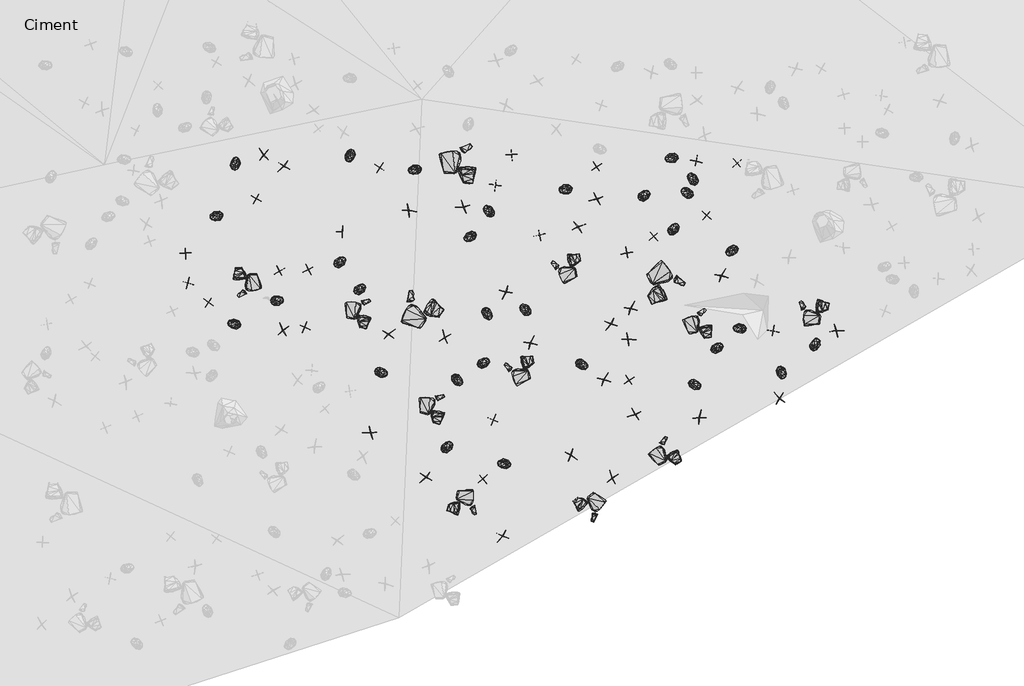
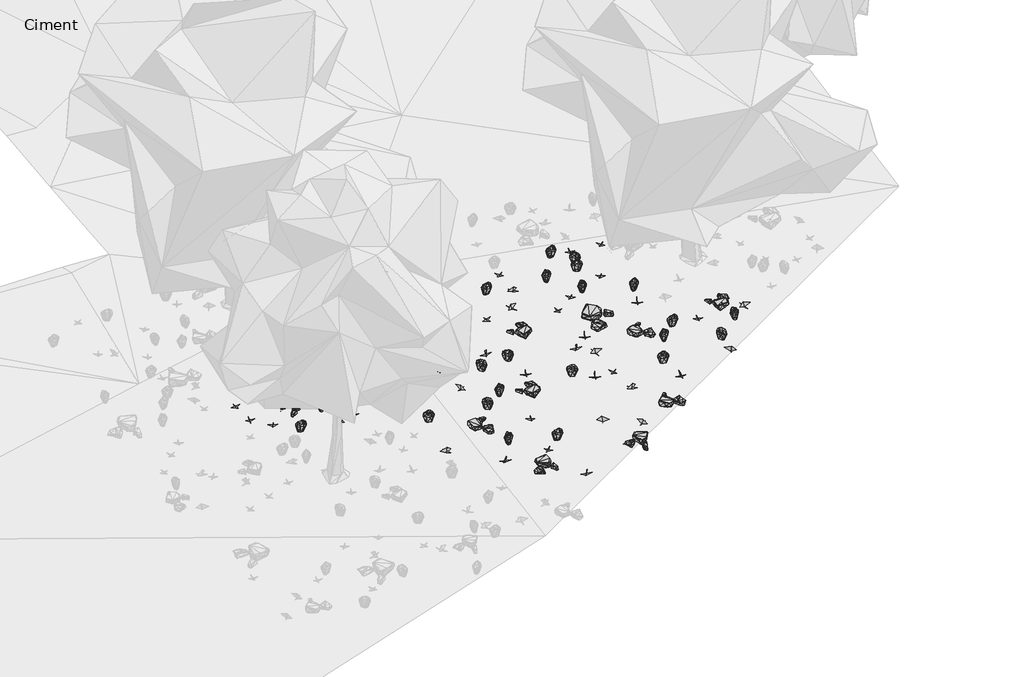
# One storey, part 13 of 30: 90 geographic elements.
"""IFC4 building model written with IfcOpenShell, lengths in millimetres."""

from ifc_helpers import new_model, si_unit, origin, place, context, project, spatial, transform, mapped, element, save
from components import enscape_assetdefinition_bush_025_fern_enscape_5718bf32, enscape_assetdefinition_bush_054_plant_09_version_2_enscape_7b546a12, enscape_assetdefinition_bush_062_plant_09_version_3_enscape_ccf8c8eb, enscape_assetdefinition_stone_013_group_enscape_516da325, enscape_assetdefinition_stone_013_group_enscape_db9b3e91

model = new_model("IFC4")

# Units and contexts
model_context = context("Model", 3, world=origin())
ifc_project = project(units=[si_unit("LENGTHUNIT", "METRE", prefix="MILLI")], contexts=[model_context])

# Site, building, storey
site = spatial("IfcSite", under=ifc_project)
building = spatial("IfcBuilding", under=site)
storey = spatial("IfcBuildingStorey", under=building, Name="Ciment", Elevation=-1500.0)

# Geographic elements
placement = place(None, origin())
enscape_assetdefinition_bush_025_fern_enscape_shape = enscape_assetdefinition_bush_025_fern_enscape_5718bf32(model_context)
element("IfcGeographicElement", 1, ObjectType="Enscape AssetDefinition - Bush 025 Fern : Enscape AssetDefinition - Bush 025 Fern", at=placement, inside=storey, context=model_context, shape_type="MappedRepresentation", body=[
    mapped(enscape_assetdefinition_bush_025_fern_enscape_shape, transform((18294.1112518, -16118.4368134, -2400.1202583), x_axis=(-0.9525654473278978, -0.3043338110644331, 0.0), y_axis=(0.3043338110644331, -0.9525654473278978, 0.0), z_axis=(0.0, 0.0, 1.0))),
])
element("IfcGeographicElement", 2, ObjectType="Enscape AssetDefinition - Bush 025 Fern : Enscape AssetDefinition - Bush 025 Fern", at=placement, inside=storey, context=model_context, shape_type="MappedRepresentation", body=[
    mapped(enscape_assetdefinition_bush_025_fern_enscape_shape, transform((18617.7349091, -16834.9666595, -2486.5083694), x_axis=(-0.894571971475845, 0.4469239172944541, 0.0), y_axis=(-0.4469239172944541, -0.894571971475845, 0.0), z_axis=(0.0, 0.0, 1.0))),
])
element("IfcGeographicElement", 3, ObjectType="Enscape AssetDefinition - Bush 025 Fern : Enscape AssetDefinition - Bush 025 Fern", at=placement, inside=storey, context=model_context, shape_type="MappedRepresentation", body=[
    mapped(enscape_assetdefinition_bush_025_fern_enscape_shape, transform((17741.3196564, -16894.9985504, -2444.0667629), x_axis=(0.6806241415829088, 0.7326327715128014, 0.0), y_axis=(-0.7326327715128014, 0.6806241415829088, 0.0), z_axis=(0.0, 0.0, 1.0))),
])
element("IfcGeographicElement", 4, ObjectType="Enscape AssetDefinition - Bush 025 Fern : Enscape AssetDefinition - Bush 025 Fern", at=placement, inside=storey, context=model_context, shape_type="MappedRepresentation", body=[
    mapped(enscape_assetdefinition_bush_025_fern_enscape_shape, transform((19702.6309967, -19638.0214691, -2814.4989014), x_axis=(-0.9982478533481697, -0.0591711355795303, 0.0), y_axis=(0.0591711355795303, -0.9982478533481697, 0.0), z_axis=(0.0, 0.0, 1.0))),
])
element("IfcGeographicElement", 5, ObjectType="Enscape AssetDefinition - Bush 025 Fern : Enscape AssetDefinition - Bush 025 Fern", at=placement, inside=storey, context=model_context, shape_type="MappedRepresentation", body=[
    mapped(enscape_assetdefinition_bush_025_fern_enscape_shape, transform((13669.6872711, -22092.0791626, -2717.7143097), x_axis=(0.634227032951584, 0.7731468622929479, 0.0), y_axis=(-0.7731468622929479, 0.634227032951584, 0.0), z_axis=(0.0, 0.0, 1.0))),
])
element("IfcGeographicElement", 6, ObjectType="Enscape AssetDefinition - Bush 025 Fern : Enscape AssetDefinition - Bush 025 Fern", at=placement, inside=storey, context=model_context, shape_type="MappedRepresentation", body=[
    mapped(enscape_assetdefinition_bush_025_fern_enscape_shape, transform((13870.9201813, -20720.823288, -2597.5065231), x_axis=(0.7721068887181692, -0.6354926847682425, 0.0), y_axis=(0.6354926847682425, 0.7721068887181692, 0.0), z_axis=(0.0, 0.0, 1.0))),
])
element("IfcGeographicElement", 7, ObjectType="Enscape AssetDefinition - Bush 025 Fern : Enscape AssetDefinition - Bush 025 Fern", at=placement, inside=storey, context=model_context, shape_type="MappedRepresentation", body=[
    mapped(enscape_assetdefinition_bush_025_fern_enscape_shape, transform((12300.8718491, -20561.33461, -2516.5832043), x_axis=(0.9725343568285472, -0.23275937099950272, 0.0), y_axis=(0.23275937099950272, 0.9725343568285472, 0.0), z_axis=(0.0, 0.0, 1.0))),
])
element("IfcGeographicElement", 8, ObjectType="Enscape AssetDefinition - Bush 025 Fern : Enscape AssetDefinition - Bush 025 Fern", at=placement, inside=storey, context=model_context, shape_type="MappedRepresentation", body=[
    mapped(enscape_assetdefinition_bush_025_fern_enscape_shape, transform((9254.4384003, -19545.8812714, -2361.3886833), x_axis=(-0.9963437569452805, 0.08543487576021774, 0.0), y_axis=(-0.08543487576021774, -0.9963437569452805, 0.0), z_axis=(0.0, 0.0, 1.0))),
])
element("IfcGeographicElement", 9, ObjectType="Enscape AssetDefinition - Bush 025 Fern : Enscape AssetDefinition - Bush 025 Fern", at=placement, inside=storey, context=model_context, shape_type="MappedRepresentation", body=[
    mapped(enscape_assetdefinition_bush_025_fern_enscape_shape, transform((15274.8622894, -19249.33815, -2533.834219), x_axis=(-0.7952597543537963, 0.6062688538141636, 0.0), y_axis=(-0.6062688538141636, -0.7952597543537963, 0.0), z_axis=(0.0, 0.0, 1.0))),
])
element("IfcGeographicElement", 10, ObjectType="Enscape AssetDefinition - Bush 025 Fern : Enscape AssetDefinition - Bush 025 Fern", at=placement, inside=storey, context=model_context, shape_type="MappedRepresentation", body=[
    mapped(enscape_assetdefinition_bush_025_fern_enscape_shape, transform((18785.8181, -20811.0713959, -2876.3856888), x_axis=(0.9673684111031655, -0.253373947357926, 0.0), y_axis=(0.253373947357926, 0.9673684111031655, 0.0), z_axis=(0.0, 0.0, 1.0))),
])
element("IfcGeographicElement", 11, ObjectType="Enscape AssetDefinition - Bush 025 Fern : Enscape AssetDefinition - Bush 025 Fern", at=placement, inside=storey, context=model_context, shape_type="MappedRepresentation", body=[
    mapped(enscape_assetdefinition_bush_025_fern_enscape_shape, transform((14522.7718353, -17210.5884552, -2297.3108292), x_axis=(-0.7524160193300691, 0.6586881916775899, 0.0), y_axis=(-0.6586881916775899, -0.7524160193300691, 0.0), z_axis=(0.0, 0.0, 1.0))),
])
element("IfcGeographicElement", 12, ObjectType="Enscape AssetDefinition - Bush 025 Fern : Enscape AssetDefinition - Bush 025 Fern", at=placement, inside=storey, context=model_context, shape_type="MappedRepresentation", body=[
    mapped(enscape_assetdefinition_bush_025_fern_enscape_shape, transform((19541.0003662, -18037.2982025, -2652.3730755), x_axis=(-0.7257281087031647, -0.6879816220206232, 0.0), y_axis=(0.6879816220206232, -0.7257281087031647, 0.0), z_axis=(0.0, 0.0, 1.0))),
])
element("IfcGeographicElement", 13, ObjectType="Enscape AssetDefinition - Bush 025 Fern : Enscape AssetDefinition - Bush 025 Fern", at=placement, inside=storey, context=model_context, shape_type="MappedRepresentation", body=[
    mapped(enscape_assetdefinition_bush_025_fern_enscape_shape, transform((9289.4191742, -16230.9017181, -2049.9300957), x_axis=(0.08808403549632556, 0.996113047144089, 0.0), y_axis=(-0.996113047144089, 0.08808403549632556, 0.0), z_axis=(0.0, 0.0, 1.0))),
])
element("IfcGeographicElement", 14, ObjectType="Enscape AssetDefinition - Bush 025 Fern : Enscape AssetDefinition - Bush 025 Fern", at=placement, inside=storey, context=model_context, shape_type="MappedRepresentation", body=[
    mapped(enscape_assetdefinition_bush_025_fern_enscape_shape, transform((21275.5508423, -19969.247818, -2932.693243), x_axis=(0.3637627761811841, 0.9314916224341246, 0.0), y_axis=(-0.9314916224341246, 0.3637627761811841, 0.0), z_axis=(0.0, 0.0, 1.0))),
])
element("IfcGeographicElement", 15, ObjectType="Enscape AssetDefinition - Bush 025 Fern : Enscape AssetDefinition - Bush 025 Fern", at=placement, inside=storey, context=model_context, shape_type="MappedRepresentation", body=[
    mapped(enscape_assetdefinition_bush_025_fern_enscape_shape, transform((16450.3726959, -20397.0890045, -2708.3435059), x_axis=(0.9203547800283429, -0.3910844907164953, 0.0), y_axis=(0.3910844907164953, 0.9203547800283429, 0.0), z_axis=(0.0, 0.0, 1.0))),
])
element("IfcGeographicElement", 16, ObjectType="Enscape AssetDefinition - Bush 025 Fern : Enscape AssetDefinition - Bush 025 Fern", at=placement, inside=storey, context=model_context, shape_type="MappedRepresentation", body=[
    mapped(enscape_assetdefinition_bush_025_fern_enscape_shape, transform((16101.4823914, -16763.8607025, -2341.3484097), x_axis=(-0.9728513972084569, -0.2314306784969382, 0.0), y_axis=(0.2314306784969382, -0.9728513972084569, 0.0), z_axis=(0.0, 0.0, 1.0))),
])
element("IfcGeographicElement", 17, ObjectType="Enscape AssetDefinition - Bush 025 Fern : Enscape AssetDefinition - Bush 025 Fern", at=placement, inside=storey, context=model_context, shape_type="MappedRepresentation", body=[
    mapped(enscape_assetdefinition_bush_025_fern_enscape_shape, transform((11451.8718719, -18271.2078094, -2284.3382359), x_axis=(0.7247481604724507, 0.6890138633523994, 0.0), y_axis=(-0.6890138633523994, 0.7247481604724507, 0.0), z_axis=(0.0, 0.0, 1.0))),
])
element("IfcGeographicElement", 18, ObjectType="Enscape AssetDefinition - Bush 025 Fern : Enscape AssetDefinition - Bush 025 Fern", at=placement, inside=storey, context=model_context, shape_type="MappedRepresentation", body=[
    mapped(enscape_assetdefinition_bush_025_fern_enscape_shape, transform((10153.2421112, -19073.884964, -2334.5224857), x_axis=(0.9740836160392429, 0.22618821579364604, 0.0), y_axis=(-0.22618821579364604, 0.9740836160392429, 0.0), z_axis=(0.0, 0.0, 1.0))),
])
element("IfcGeographicElement", 19, ObjectType="Enscape AssetDefinition - Bush 025 Fern : Enscape AssetDefinition - Bush 025 Fern", at=placement, inside=storey, context=model_context, shape_type="MappedRepresentation", body=[
    mapped(enscape_assetdefinition_bush_025_fern_enscape_shape, transform((14832.8495026, -22434.8011017, -2814.4779205), x_axis=(-0.9999945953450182, -0.003287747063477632, 0.0), y_axis=(0.003287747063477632, -0.9999945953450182, 0.0), z_axis=(0.0, 0.0, 1.0))),
])
element("IfcGeographicElement", 20, ObjectType="Enscape AssetDefinition - Bush 025 Fern : Enscape AssetDefinition - Bush 025 Fern", at=placement, inside=storey, context=model_context, shape_type="MappedRepresentation", body=[
    mapped(enscape_assetdefinition_bush_025_fern_enscape_shape, transform((18739.3321991, -16546.7739105, -2465.6059742), x_axis=(-0.6854442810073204, 0.7281250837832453, 0.0), y_axis=(-0.7281250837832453, -0.6854442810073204, 0.0), z_axis=(0.0, 0.0, 1.0))),
])
element("IfcGeographicElement", 21, ObjectType="Enscape AssetDefinition - Bush 025 Fern : Enscape AssetDefinition - Bush 025 Fern", at=placement, inside=storey, context=model_context, shape_type="MappedRepresentation", body=[
    mapped(enscape_assetdefinition_bush_025_fern_enscape_shape, transform((14419.2371368, -20354.8107147, -2592.6170349), x_axis=(0.7932681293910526, 0.6088724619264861, 0.0), y_axis=(-0.6088724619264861, 0.7932681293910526, 0.0), z_axis=(0.0, 0.0, 1.0))),
])
element("IfcGeographicElement", 22, ObjectType="Enscape AssetDefinition - Bush 025 Fern : Enscape AssetDefinition - Bush 025 Fern", at=placement, inside=storey, context=model_context, shape_type="MappedRepresentation", body=[
    mapped(enscape_assetdefinition_bush_025_fern_enscape_shape, transform((8885.2977753, -17318.4261322, -2144.4296837), x_axis=(-0.9475764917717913, -0.31952901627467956, 0.0), y_axis=(0.31952901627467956, -0.9475764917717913, 0.0), z_axis=(0.0, 0.0, 1.0))),
])
element("IfcGeographicElement", 23, ObjectType="Enscape AssetDefinition - Bush 025 Fern : Enscape AssetDefinition - Bush 025 Fern", at=placement, inside=storey, context=model_context, shape_type="MappedRepresentation", body=[
    mapped(enscape_assetdefinition_bush_025_fern_enscape_shape, transform((11865.3125763, -18829.5459747, -2344.9976444), x_axis=(0.720117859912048, 0.693851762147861, 0.0), y_axis=(-0.693851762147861, 0.720117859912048, 0.0), z_axis=(0.0, 0.0, 1.0))),
])
element("IfcGeographicElement", 24, ObjectType="Enscape AssetDefinition - Bush 025 Fern : Enscape AssetDefinition - Bush 025 Fern", at=placement, inside=storey, context=model_context, shape_type="MappedRepresentation", body=[
    mapped(enscape_assetdefinition_bush_025_fern_enscape_shape, transform((18349.4052887, -17589.4241333, -2543.9796448), x_axis=(0.5585874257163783, 0.8294456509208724, 0.0), y_axis=(-0.8294456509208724, 0.5585874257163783, 0.0), z_axis=(0.0, 0.0, 1.0))),
])
element("IfcGeographicElement", 25, ObjectType="Enscape AssetDefinition - Bush 025 Fern : Enscape AssetDefinition - Bush 025 Fern", at=placement, inside=storey, context=model_context, shape_type="MappedRepresentation", body=[
    mapped(enscape_assetdefinition_bush_025_fern_enscape_shape, transform((11646.4862823, -16077.0397186, -2081.5386772), x_axis=(-0.23139083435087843, -0.9728608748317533, 0.0), y_axis=(0.9728608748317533, -0.23139083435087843, 0.0), z_axis=(0.0, 0.0, 1.0))),
])
element("IfcGeographicElement", 26, ObjectType="Enscape AssetDefinition - Bush 025 Fern : Enscape AssetDefinition - Bush 025 Fern", at=placement, inside=storey, context=model_context, shape_type="MappedRepresentation", body=[
    mapped(enscape_assetdefinition_bush_025_fern_enscape_shape, transform((20570.9018707, -20566.4043427, -2951.1153698), x_axis=(0.4454296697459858, -0.8953169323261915, 0.0), y_axis=(0.8953169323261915, 0.4454296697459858, 0.0), z_axis=(0.0, 0.0, 1.0))),
])
element("IfcGeographicElement", 27, ObjectType="Enscape AssetDefinition - Bush 025 Fern : Enscape AssetDefinition - Bush 025 Fern", at=placement, inside=storey, context=model_context, shape_type="MappedRepresentation", body=[
    mapped(enscape_assetdefinition_bush_025_fern_enscape_shape, transform((14487.0510101, -19348.7949371, -2500.0386238), x_axis=(0.6504575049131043, -0.7595426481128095, 0.0), y_axis=(0.7595426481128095, 0.6504575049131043, 0.0), z_axis=(0.0, 0.0, 1.0))),
])
element("IfcGeographicElement", 28, ObjectType="Enscape AssetDefinition - Bush 025 Fern : Enscape AssetDefinition - Bush 025 Fern", at=placement, inside=storey, context=model_context, shape_type="MappedRepresentation", body=[
    mapped(enscape_assetdefinition_bush_025_fern_enscape_shape, transform((19250.6313324, -20046.5221405, -2828.7522793), x_axis=(0.750601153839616, 0.6607555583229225, 0.0), y_axis=(-0.6607555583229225, 0.750601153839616, 0.0), z_axis=(0.0, 0.0, 1.0))),
])
element("IfcGeographicElement", 29, ObjectType="Enscape AssetDefinition - Bush 025 Fern : Enscape AssetDefinition - Bush 025 Fern", at=placement, inside=storey, context=model_context, shape_type="MappedRepresentation", body=[
    mapped(enscape_assetdefinition_bush_025_fern_enscape_shape, transform((12984.9033356, -16360.5861664, -2134.4125271), x_axis=(-0.9484212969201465, -0.3170126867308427, 0.0), y_axis=(0.3170126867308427, -0.9484212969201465, 0.0), z_axis=(0.0, 0.0, 1.0))),
])
element("IfcGeographicElement", 30, ObjectType="Enscape AssetDefinition - Bush 025 Fern : Enscape AssetDefinition - Bush 025 Fern", at=placement, inside=storey, context=model_context, shape_type="MappedRepresentation", body=[
    mapped(enscape_assetdefinition_bush_025_fern_enscape_shape, transform((14128.4427643, -17749.6509552, -2327.2335529), x_axis=(-0.7685958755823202, -0.6397346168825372, 0.0), y_axis=(0.6397346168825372, -0.7685958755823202, 0.0), z_axis=(0.0, 0.0, 1.0))),
])
enscape_assetdefinition_bush_054_plant_09_version_2_enscape_shape = enscape_assetdefinition_bush_054_plant_09_version_2_enscape_7b546a12(model_context)
element("IfcGeographicElement", 31, ObjectType="Enscape AssetDefinition - Bush 054 Plant 09, Version 2 : Enscape AssetDefinition - Bush 054 Plant 09, Version 2", at=placement, inside=storey, context=model_context, shape_type="MappedRepresentation", body=[
    mapped(enscape_assetdefinition_bush_054_plant_09_version_2_enscape_shape, transform((17932.6915741, -17743.3338165, -2535.8011723), x_axis=(0.7209805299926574, 0.6929553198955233, 0.0), y_axis=(-0.6929553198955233, 0.7209805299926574, 0.0), z_axis=(0.0, 0.0, 1.0))),
])
element("IfcGeographicElement", 32, ObjectType="Enscape AssetDefinition - Bush 054 Plant 09, Version 2 : Enscape AssetDefinition - Bush 054 Plant 09, Version 2", at=placement, inside=storey, context=model_context, shape_type="MappedRepresentation", body=[
    mapped(enscape_assetdefinition_bush_054_plant_09_version_2_enscape_shape, transform((16742.8150177, -16304.0485382, -2332.5929642), x_axis=(0.6039426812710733, -0.7970277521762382, 0.0), y_axis=(0.7970277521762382, 0.6039426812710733, 0.0), z_axis=(0.0, 0.0, 1.0))),
])
element("IfcGeographicElement", 33, ObjectType="Enscape AssetDefinition - Bush 054 Plant 09, Version 2 : Enscape AssetDefinition - Bush 054 Plant 09, Version 2", at=placement, inside=storey, context=model_context, shape_type="MappedRepresentation", body=[
    mapped(enscape_assetdefinition_bush_054_plant_09_version_2_enscape_shape, transform((8305.4180145, -18703.8059235, -2263.5381222), x_axis=(-0.9795356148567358, 0.20127091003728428, 0.0), y_axis=(-0.20127091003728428, -0.9795356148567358, 0.0), z_axis=(0.0, 0.0, 1.0))),
])
element("IfcGeographicElement", 34, ObjectType="Enscape AssetDefinition - Bush 054 Plant 09, Version 2 : Enscape AssetDefinition - Bush 054 Plant 09, Version 2", at=placement, inside=storey, context=model_context, shape_type="MappedRepresentation", body=[
    mapped(enscape_assetdefinition_bush_054_plant_09_version_2_enscape_shape, transform((20395.9331512, -19694.6659088, -2858.0422401), x_axis=(-0.11550366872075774, -0.9933070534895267, 0.0), y_axis=(0.9933070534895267, -0.11550366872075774, 0.0), z_axis=(0.0, 0.0, 1.0))),
])
element("IfcGeographicElement", 35, ObjectType="Enscape AssetDefinition - Bush 054 Plant 09, Version 2 : Enscape AssetDefinition - Bush 054 Plant 09, Version 2", at=placement, inside=storey, context=model_context, shape_type="MappedRepresentation", body=[
    mapped(enscape_assetdefinition_bush_054_plant_09_version_2_enscape_shape, transform((10790.5025482, -18431.9019318, -2286.5352631), x_axis=(0.8700420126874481, 0.49297758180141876, 0.0), y_axis=(-0.49297758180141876, 0.8700420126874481, 0.0), z_axis=(0.0, 0.0, 1.0))),
])
element("IfcGeographicElement", 36, ObjectType="Enscape AssetDefinition - Bush 054 Plant 09, Version 2 : Enscape AssetDefinition - Bush 054 Plant 09, Version 2", at=placement, inside=storey, context=model_context, shape_type="MappedRepresentation", body=[
    mapped(enscape_assetdefinition_bush_054_plant_09_version_2_enscape_shape, transform((14612.5087738, -21537.4774933, -2716.4611816), x_axis=(0.9411500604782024, -0.33798899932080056, 0.0), y_axis=(0.33798899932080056, 0.9411500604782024, 0.0), z_axis=(0.0, 0.0, 1.0))),
])
element("IfcGeographicElement", 37, ObjectType="Enscape AssetDefinition - Bush 054 Plant 09, Version 2 : Enscape AssetDefinition - Bush 054 Plant 09, Version 2", at=placement, inside=storey, context=model_context, shape_type="MappedRepresentation", body=[
    mapped(enscape_assetdefinition_bush_054_plant_09_version_2_enscape_shape, transform((14405.1799774, -22754.5528412, -2821.5732574), x_axis=(-0.6954200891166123, 0.7186034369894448, 0.0), y_axis=(-0.7186034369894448, -0.6954200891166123, 0.0), z_axis=(0.0, 0.0, 1.0))),
])
element("IfcGeographicElement", 38, ObjectType="Enscape AssetDefinition - Bush 054 Plant 09, Version 2 : Enscape AssetDefinition - Bush 054 Plant 09, Version 2", at=placement, inside=storey, context=model_context, shape_type="MappedRepresentation", body=[
    mapped(enscape_assetdefinition_bush_054_plant_09_version_2_enscape_shape, transform((8259.0122223, -18092.3099518, -2205.051899), x_axis=(-0.1219215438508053, 0.9925397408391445, 0.0), y_axis=(-0.9925397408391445, -0.1219215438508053, 0.0), z_axis=(0.0, 0.0, 1.0))),
])
element("IfcGeographicElement", 39, ObjectType="Enscape AssetDefinition - Bush 054 Plant 09, Version 2 : Enscape AssetDefinition - Bush 054 Plant 09, Version 2", at=placement, inside=storey, context=model_context, shape_type="MappedRepresentation", body=[
    mapped(enscape_assetdefinition_bush_054_plant_09_version_2_enscape_shape, transform((11490.4956818, -17651.3996124, -2226.7317772), x_axis=(0.9996141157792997, 0.027778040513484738, 0.0), y_axis=(-0.027778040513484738, 0.9996141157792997, 0.0), z_axis=(0.0, 0.0, 1.0))),
])
element("IfcGeographicElement", 40, ObjectType="Enscape AssetDefinition - Bush 054 Plant 09, Version 2 : Enscape AssetDefinition - Bush 054 Plant 09, Version 2", at=placement, inside=storey, context=model_context, shape_type="MappedRepresentation", body=[
    mapped(enscape_assetdefinition_bush_054_plant_09_version_2_enscape_shape, transform((19027.3609161, -17311.8724823, -2554.6860695), x_axis=(0.6355011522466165, 0.7720999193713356, 0.0), y_axis=(-0.7720999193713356, 0.6355011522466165, 0.0), z_axis=(0.0, 0.0, 1.0))),
])
element("IfcGeographicElement", 41, ObjectType="Enscape AssetDefinition - Bush 054 Plant 09, Version 2 : Enscape AssetDefinition - Bush 054 Plant 09, Version 2", at=placement, inside=storey, context=model_context, shape_type="MappedRepresentation", body=[
    mapped(enscape_assetdefinition_bush_054_plant_09_version_2_enscape_shape, transform((17414.8101807, -20715.4407501, -2791.8484211), x_axis=(0.5895214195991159, -0.8077527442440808, 0.0), y_axis=(0.8077527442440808, 0.5895214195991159, 0.0), z_axis=(0.0, 0.0, 1.0))),
])
element("IfcGeographicElement", 42, ObjectType="Enscape AssetDefinition - Bush 054 Plant 09, Version 2 : Enscape AssetDefinition - Bush 054 Plant 09, Version 2", at=placement, inside=storey, context=model_context, shape_type="MappedRepresentation", body=[
    mapped(enscape_assetdefinition_bush_054_plant_09_version_2_enscape_shape, transform((10190.237999, -18461.4391327, -2277.5774002), x_axis=(0.5370589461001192, -0.8435447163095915, 0.0), y_axis=(0.8435447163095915, 0.5370589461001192, 0.0), z_axis=(0.0, 0.0, 1.0))),
])
element("IfcGeographicElement", 43, ObjectType="Enscape AssetDefinition - Bush 054 Plant 09, Version 2 : Enscape AssetDefinition - Bush 054 Plant 09, Version 2", at=placement, inside=storey, context=model_context, shape_type="MappedRepresentation", body=[
    mapped(enscape_assetdefinition_bush_054_plant_09_version_2_enscape_shape, transform((14663.6638641, -16685.2359772, -2254.7650337), x_axis=(0.08315867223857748, 0.9965363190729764, 0.0), y_axis=(-0.9965363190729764, 0.08315867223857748, 0.0), z_axis=(0.0, 0.0, 1.0))),
])
element("IfcGeographicElement", 44, ObjectType="Enscape AssetDefinition - Bush 054 Plant 09, Version 2 : Enscape AssetDefinition - Bush 054 Plant 09, Version 2", at=placement, inside=storey, context=model_context, shape_type="MappedRepresentation", body=[
    mapped(enscape_assetdefinition_bush_054_plant_09_version_2_enscape_shape, transform((9717.9470062, -16965.4979706, -2127.4814606), x_axis=(0.4441680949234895, 0.8959434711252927, 0.0), y_axis=(-0.8959434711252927, 0.4441680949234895, 0.0), z_axis=(0.0, 0.0, 1.0))),
])
element("IfcGeographicElement", 45, ObjectType="Enscape AssetDefinition - Bush 054 Plant 09, Version 2 : Enscape AssetDefinition - Bush 054 Plant 09, Version 2", at=placement, inside=storey, context=model_context, shape_type="MappedRepresentation", body=[
    mapped(enscape_assetdefinition_bush_054_plant_09_version_2_enscape_shape, transform((19655.210495, -16229.5742035, -2485.5985641), x_axis=(0.6945600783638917, -0.7194347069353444, 0.0), y_axis=(0.7194347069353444, 0.6945600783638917, 0.0), z_axis=(0.0, 0.0, 1.0))),
])
element("IfcGeographicElement", 46, ObjectType="Enscape AssetDefinition - Bush 054 Plant 09, Version 2 : Enscape AssetDefinition - Bush 054 Plant 09, Version 2", at=placement, inside=storey, context=model_context, shape_type="MappedRepresentation", body=[
    mapped(enscape_assetdefinition_bush_054_plant_09_version_2_enscape_shape, transform((15577.6662827, -17712.7685547, -2403.3868313), x_axis=(-0.2611399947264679, 0.9653009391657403, 0.0), y_axis=(-0.9653009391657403, -0.2611399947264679, 0.0), z_axis=(0.0, 0.0, 1.0))),
])
element("IfcGeographicElement", 47, ObjectType="Enscape AssetDefinition - Bush 054 Plant 09, Version 2 : Enscape AssetDefinition - Bush 054 Plant 09, Version 2", at=placement, inside=storey, context=model_context, shape_type="MappedRepresentation", body=[
    mapped(enscape_assetdefinition_bush_054_plant_09_version_2_enscape_shape, transform((8731.4434052, -19109.5523834, -2310.0755215), x_axis=(0.52155123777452, 0.853219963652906, 0.0), y_axis=(-0.853219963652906, 0.52155123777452, 0.0), z_axis=(0.0, 0.0, 1.0))),
])
element("IfcGeographicElement", 48, ObjectType="Enscape AssetDefinition - Bush 054 Plant 09, Version 2 : Enscape AssetDefinition - Bush 054 Plant 09, Version 2", at=placement, inside=storey, context=model_context, shape_type="MappedRepresentation", body=[
    mapped(enscape_assetdefinition_bush_054_plant_09_version_2_enscape_shape, transform((18807.4359894, -16181.1275482, -2434.3466759), x_axis=(-0.1479117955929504, -0.9890005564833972, 0.0), y_axis=(0.9890005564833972, -0.1479117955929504, 0.0), z_axis=(0.0, 0.0, 1.0))),
])
element("IfcGeographicElement", 49, ObjectType="Enscape AssetDefinition - Bush 054 Plant 09, Version 2 : Enscape AssetDefinition - Bush 054 Plant 09, Version 2", at=placement, inside=storey, context=model_context, shape_type="MappedRepresentation", body=[
    mapped(enscape_assetdefinition_bush_054_plant_09_version_2_enscape_shape, transform((14998.708725, -16054.5368195, -2212.8095627), x_axis=(-0.13232696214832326, 0.9912061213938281, 0.0), y_axis=(-0.9912061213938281, -0.13232696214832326, 0.0), z_axis=(0.0, 0.0, 1.0))),
])
element("IfcGeographicElement", 50, ObjectType="Enscape AssetDefinition - Bush 054 Plant 09, Version 2 : Enscape AssetDefinition - Bush 054 Plant 09, Version 2", at=placement, inside=storey, context=model_context, shape_type="MappedRepresentation", body=[
    mapped(enscape_assetdefinition_bush_054_plant_09_version_2_enscape_shape, transform((10722.536087, -19614.6068573, -2396.5706825), x_axis=(-0.9432989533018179, 0.3319444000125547, 0.0), y_axis=(-0.3319444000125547, -0.9432989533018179, 0.0), z_axis=(0.0, 0.0, 1.0))),
])
element("IfcGeographicElement", 51, ObjectType="Enscape AssetDefinition - Bush 054 Plant 09, Version 2 : Enscape AssetDefinition - Bush 054 Plant 09, Version 2", at=placement, inside=storey, context=model_context, shape_type="MappedRepresentation", body=[
    mapped(enscape_assetdefinition_bush_054_plant_09_version_2_enscape_shape, transform((12264.8763657, -16320.4746246, -2116.5542603), x_axis=(0.8758017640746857, -0.4826709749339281, 0.0), y_axis=(0.4826709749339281, 0.8758017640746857, 0.0), z_axis=(0.0, 0.0, 1.0))),
])
element("IfcGeographicElement", 52, ObjectType="Enscape AssetDefinition - Bush 054 Plant 09, Version 2 : Enscape AssetDefinition - Bush 054 Plant 09, Version 2", at=placement, inside=storey, context=model_context, shape_type="MappedRepresentation", body=[
    mapped(enscape_assetdefinition_bush_054_plant_09_version_2_enscape_shape, transform((17369.2455292, -18079.3857574, -2536.9915962), x_axis=(0.22393637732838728, -0.9746037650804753, 0.0), y_axis=(0.9746037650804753, 0.22393637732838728, 0.0), z_axis=(0.0, 0.0, 1.0))),
])
enscape_assetdefinition_bush_062_plant_09_version_3_enscape_shape = enscape_assetdefinition_bush_062_plant_09_version_3_enscape_ccf8c8eb(model_context)
element("IfcGeographicElement", 53, ObjectType="Enscape AssetDefinition - Bush 062 Plant 09, Version 3 : Enscape AssetDefinition - Bush 062 Plant 09, Version 3", at=placement, inside=storey, context=model_context, shape_type="MappedRepresentation", body=[
    mapped(enscape_assetdefinition_bush_062_plant_09_version_3_enscape_shape, transform((16907.1178436, -20692.9264069, -2761.7781162), x_axis=(0.9874748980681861, -0.15777618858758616, 0.0), y_axis=(0.15777618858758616, 0.9874748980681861, 0.0), z_axis=(0.0, 0.0, 1.0))),
])
element("IfcGeographicElement", 54, ObjectType="Enscape AssetDefinition - Bush 062 Plant 09, Version 3 : Enscape AssetDefinition - Bush 062 Plant 09, Version 3", at=placement, inside=storey, context=model_context, shape_type="MappedRepresentation", body=[
    mapped(enscape_assetdefinition_bush_062_plant_09_version_3_enscape_shape, transform((17412.9161835, -19861.2995148, -2709.9766731), x_axis=(0.2782079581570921, -0.9605208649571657, 0.0), y_axis=(0.9605208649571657, 0.2782079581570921, 0.0), z_axis=(0.0, 0.0, 1.0))),
])
element("IfcGeographicElement", 55, ObjectType="Enscape AssetDefinition - Bush 062 Plant 09, Version 3 : Enscape AssetDefinition - Bush 062 Plant 09, Version 3", at=placement, inside=storey, context=model_context, shape_type="MappedRepresentation", body=[
    mapped(enscape_assetdefinition_bush_062_plant_09_version_3_enscape_shape, transform((10275.8960724, -16295.9156036, -2075.3440857), x_axis=(-0.902214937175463, 0.4312866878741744, 0.0), y_axis=(-0.4312866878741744, -0.902214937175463, 0.0), z_axis=(0.0, 0.0, 1.0))),
])
element("IfcGeographicElement", 56, ObjectType="Enscape AssetDefinition - Bush 062 Plant 09, Version 3 : Enscape AssetDefinition - Bush 062 Plant 09, Version 3", at=placement, inside=storey, context=model_context, shape_type="MappedRepresentation", body=[
    mapped(enscape_assetdefinition_bush_062_plant_09_version_3_enscape_shape, transform((14872.1027374, -18898.9810944, -2478.1491756), x_axis=(-0.9976771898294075, 0.06811919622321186, 0.0), y_axis=(-0.06811919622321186, -0.9976771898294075, 0.0), z_axis=(0.0, 0.0, 1.0))),
])
element("IfcGeographicElement", 57, ObjectType="Enscape AssetDefinition - Bush 062 Plant 09, Version 3 : Enscape AssetDefinition - Bush 062 Plant 09, Version 3", at=placement, inside=storey, context=model_context, shape_type="MappedRepresentation", body=[
    mapped(enscape_assetdefinition_bush_062_plant_09_version_3_enscape_shape, transform((16741.6591644, -16969.8886871, -2396.2709904), x_axis=(-0.5626977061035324, 0.8266627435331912, 0.0), y_axis=(-0.8266627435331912, -0.5626977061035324, 0.0), z_axis=(0.0, 0.0, 1.0))),
])
element("IfcGeographicElement", 58, ObjectType="Enscape AssetDefinition - Bush 062 Plant 09, Version 3 : Enscape AssetDefinition - Bush 062 Plant 09, Version 3", at=placement, inside=storey, context=model_context, shape_type="MappedRepresentation", body=[
    mapped(enscape_assetdefinition_bush_062_plant_09_version_3_enscape_shape, transform((17040.4338837, -19560.4801178, -2660.6984138), x_axis=(-0.9687654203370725, 0.24797895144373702, 0.0), y_axis=(-0.24797895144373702, -0.9687654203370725, 0.0), z_axis=(0.0, 0.0, 1.0))),
])
element("IfcGeographicElement", 59, ObjectType="Enscape AssetDefinition - Bush 062 Plant 09, Version 3 : Enscape AssetDefinition - Bush 062 Plant 09, Version 3", at=placement, inside=storey, context=model_context, shape_type="MappedRepresentation", body=[
    mapped(enscape_assetdefinition_bush_062_plant_09_version_3_enscape_shape, transform((16228.6281586, -22266.6416168, -2875.1254082), x_axis=(-0.2409267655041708, -0.9705432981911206, 0.0), y_axis=(0.9705432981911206, -0.2409267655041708, 0.0), z_axis=(0.0, 0.0, 1.0))),
])
element("IfcGeographicElement", 60, ObjectType="Enscape AssetDefinition - Bush 062 Plant 09, Version 3 : Enscape AssetDefinition - Bush 062 Plant 09, Version 3", at=placement, inside=storey, context=model_context, shape_type="MappedRepresentation", body=[
    mapped(enscape_assetdefinition_bush_062_plant_09_version_3_enscape_shape, transform((14803.1749725, -23945.3716278, -2957.4546814), x_axis=(-0.9607315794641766, 0.2774794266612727, 0.0), y_axis=(-0.2774794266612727, -0.9607315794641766, 0.0), z_axis=(0.0, 0.0, 1.0))),
])
element("IfcGeographicElement", 61, ObjectType="Enscape AssetDefinition - Bush 062 Plant 09, Version 3 : Enscape AssetDefinition - Bush 062 Plant 09, Version 3", at=placement, inside=storey, context=model_context, shape_type="MappedRepresentation", body=[
    mapped(enscape_assetdefinition_bush_062_plant_09_version_3_enscape_shape, transform((12065.984726, -21806.8790436, -2629.2719841), x_axis=(-0.35855974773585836, 0.9335067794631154, 0.0), y_axis=(-0.9335067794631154, -0.35855974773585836, 0.0), z_axis=(0.0, 0.0, 1.0))),
])
element("IfcGeographicElement", 62, ObjectType="Enscape AssetDefinition - Bush 062 Plant 09, Version 3 : Enscape AssetDefinition - Bush 062 Plant 09, Version 3", at=placement, inside=storey, context=model_context, shape_type="MappedRepresentation", body=[
    mapped(enscape_assetdefinition_bush_062_plant_09_version_3_enscape_shape, transform((12877.3212433, -17200.7427216, -2211.4191055), x_axis=(0.23056632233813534, -0.9730566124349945, 0.0), y_axis=(0.9730566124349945, 0.23056632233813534, 0.0), z_axis=(0.0, 0.0, 1.0))),
])
element("IfcGeographicElement", 63, ObjectType="Enscape AssetDefinition - Bush 062 Plant 09, Version 3 : Enscape AssetDefinition - Bush 062 Plant 09, Version 3", at=placement, inside=storey, context=model_context, shape_type="MappedRepresentation", body=[
    mapped(enscape_assetdefinition_bush_062_plant_09_version_3_enscape_shape, transform((10261.4078522, -19670.7820892, -2392.8427696), x_axis=(0.7029583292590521, 0.7112310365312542, 0.0), y_axis=(-0.7112310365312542, 0.7029583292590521, 0.0), z_axis=(0.0, 0.0, 1.0))),
])
element("IfcGeographicElement", 64, ObjectType="Enscape AssetDefinition - Bush 062 Plant 09, Version 3 : Enscape AssetDefinition - Bush 062 Plant 09, Version 3", at=placement, inside=storey, context=model_context, shape_type="MappedRepresentation", body=[
    mapped(enscape_assetdefinition_bush_062_plant_09_version_3_enscape_shape, transform((17460.7048035, -19222.3758698, -2651.4394283), x_axis=(0.9933471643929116, -0.11515819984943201, 0.0), y_axis=(0.11515819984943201, 0.9933471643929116, 0.0), z_axis=(0.0, 0.0, 1.0))),
])
element("IfcGeographicElement", 65, ObjectType="Enscape AssetDefinition - Bush 062 Plant 09, Version 3 : Enscape AssetDefinition - Bush 062 Plant 09, Version 3", at=placement, inside=storey, context=model_context, shape_type="MappedRepresentation", body=[
    mapped(enscape_assetdefinition_bush_062_plant_09_version_3_enscape_shape, transform((13608.0951691, -19822.4849701, -2497.0569611), x_axis=(0.8016870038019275, 0.5977440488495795, 0.0), y_axis=(-0.5977440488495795, 0.8016870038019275, 0.0), z_axis=(0.0, 0.0, 1.0))),
])
element("IfcGeographicElement", 66, ObjectType="Enscape AssetDefinition - Bush 062 Plant 09, Version 3 : Enscape AssetDefinition - Bush 062 Plant 09, Version 3", at=placement, inside=storey, context=model_context, shape_type="MappedRepresentation", body=[
    mapped(enscape_assetdefinition_bush_062_plant_09_version_3_enscape_shape, transform((16378.7822723, -17535.9554291, -2430.508852), x_axis=(0.6717797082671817, -0.7407509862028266, 0.0), y_axis=(0.7407509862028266, 0.6717797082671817, 0.0), z_axis=(0.0, 0.0, 1.0))),
])
element("IfcGeographicElement", 67, ObjectType="Enscape AssetDefinition - Bush 062 Plant 09, Version 3 : Enscape AssetDefinition - Bush 062 Plant 09, Version 3", at=placement, inside=storey, context=model_context, shape_type="MappedRepresentation", body=[
    mapped(enscape_assetdefinition_bush_062_plant_09_version_3_enscape_shape, transform((9862.6508713, -16046.7586517, -2043.8015461), x_axis=(0.5532793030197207, 0.8329958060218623, 0.0), y_axis=(-0.8329958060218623, 0.5532793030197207, 0.0), z_axis=(0.0, 0.0, 1.0))),
])
element("IfcGeographicElement", 68, ObjectType="Enscape AssetDefinition - Bush 062 Plant 09, Version 3 : Enscape AssetDefinition - Bush 062 Plant 09, Version 3", at=placement, inside=storey, context=model_context, shape_type="MappedRepresentation", body=[
    mapped(enscape_assetdefinition_bush_062_plant_09_version_3_enscape_shape, transform((21717.5693512, -19686.5825653, -2929.9368858), x_axis=(0.35601944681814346, -0.9344785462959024, 0.0), y_axis=(0.9344785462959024, 0.35601944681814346, 0.0), z_axis=(0.0, 0.0, 1.0))),
])
element("IfcGeographicElement", 69, ObjectType="Enscape AssetDefinition - Bush 062 Plant 09, Version 3 : Enscape AssetDefinition - Bush 062 Plant 09, Version 3", at=placement, inside=storey, context=model_context, shape_type="MappedRepresentation", body=[
    mapped(enscape_assetdefinition_bush_062_plant_09_version_3_enscape_shape, transform((17069.2043304, -22727.0374298, -2965.4178619), x_axis=(0.7402807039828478, 0.672297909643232, 0.0), y_axis=(-0.672297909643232, 0.7402807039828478, 0.0), z_axis=(0.0, 0.0, 1.0))),
])
element("IfcGeographicElement", 70, ObjectType="Enscape AssetDefinition - Bush 062 Plant 09, Version 3 : Enscape AssetDefinition - Bush 062 Plant 09, Version 3", at=placement, inside=storey, context=model_context, shape_type="MappedRepresentation", body=[
    mapped(enscape_assetdefinition_bush_062_plant_09_version_3_enscape_shape, transform((15386.4307404, -19936.7351532, -2605.7739258), x_axis=(0.9981063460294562, -0.06151196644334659, 0.0), y_axis=(0.06151196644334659, 0.9981063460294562, 0.0), z_axis=(0.0, 0.0, 1.0))),
])
element("IfcGeographicElement", 71, ObjectType="Enscape AssetDefinition - Bush 062 Plant 09, Version 3 : Enscape AssetDefinition - Bush 062 Plant 09, Version 3", at=placement, inside=storey, context=model_context, shape_type="MappedRepresentation", body=[
    mapped(enscape_assetdefinition_bush_062_plant_09_version_3_enscape_shape, transform((12457.6931, -19752.0160675, -2443.4437752), x_axis=(0.8680103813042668, -0.49654604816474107, 0.0), y_axis=(0.49654604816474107, 0.8680103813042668, 0.0), z_axis=(0.0, 0.0, 1.0))),
])
element("IfcGeographicElement", 72, ObjectType="Enscape AssetDefinition - Bush 062 Plant 09, Version 3 : Enscape AssetDefinition - Bush 062 Plant 09, Version 3", at=placement, inside=storey, context=model_context, shape_type="MappedRepresentation", body=[
    mapped(enscape_assetdefinition_bush_062_plant_09_version_3_enscape_shape, transform((19336.9960785, -18542.3984528, -2689.5103455), x_axis=(0.993196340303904, -0.11645183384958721, 0.0), y_axis=(0.11645183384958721, 0.993196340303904, 0.0), z_axis=(0.0, 0.0, 1.0))),
])
element("IfcGeographicElement", 73, ObjectType="Enscape AssetDefinition - Bush 062 Plant 09, Version 3 : Enscape AssetDefinition - Bush 062 Plant 09, Version 3", at=placement, inside=storey, context=model_context, shape_type="MappedRepresentation", body=[
    mapped(enscape_assetdefinition_bush_062_plant_09_version_3_enscape_shape, transform((20523.9696503, -21082.9410553, -2997.9827404), x_axis=(0.4214904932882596, 0.9068328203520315, 0.0), y_axis=(-0.9068328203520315, 0.4214904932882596, 0.0), z_axis=(0.0, 0.0, 1.0))),
])
element("IfcGeographicElement", 74, ObjectType="Enscape AssetDefinition - Bush 062 Plant 09, Version 3 : Enscape AssetDefinition - Bush 062 Plant 09, Version 3", at=placement, inside=storey, context=model_context, shape_type="MappedRepresentation", body=[
    mapped(enscape_assetdefinition_bush_062_plant_09_version_3_enscape_shape, transform((13986.7420197, -17135.2901459, -2260.6294155), x_axis=(-0.4454162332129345, 0.8953236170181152, 0.0), y_axis=(-0.8953236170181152, -0.4454162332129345, 0.0), z_axis=(0.0, 0.0, 1.0))),
])
element("IfcGeographicElement", 75, ObjectType="Enscape AssetDefinition - Bush 062 Plant 09, Version 3 : Enscape AssetDefinition - Bush 062 Plant 09, Version 3", at=placement, inside=storey, context=model_context, shape_type="MappedRepresentation", body=[
    mapped(enscape_assetdefinition_bush_062_plant_09_version_3_enscape_shape, transform((17536.157608, -21428.7509918, -2866.8060303), x_axis=(-0.6178958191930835, 0.7862599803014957, 0.0), y_axis=(-0.7862599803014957, -0.6178958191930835, 0.0), z_axis=(0.0, 0.0, 1.0))),
])
element("IfcGeographicElement", 76, ObjectType="Enscape AssetDefinition - Bush 062 Plant 09, Version 3 : Enscape AssetDefinition - Bush 062 Plant 09, Version 3", at=placement, inside=storey, context=model_context, shape_type="MappedRepresentation", body=[
    mapped(enscape_assetdefinition_bush_062_plant_09_version_3_enscape_shape, transform((13214.8227692, -22729.2995453, -2753.7050247), x_axis=(-0.89892953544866, 0.4380932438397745, 0.0), y_axis=(-0.4380932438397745, -0.89892953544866, 0.0), z_axis=(0.0, 0.0, 1.0))),
])
element("IfcGeographicElement", 77, ObjectType="Enscape AssetDefinition - Bush 062 Plant 09, Version 3 : Enscape AssetDefinition - Bush 062 Plant 09, Version 3", at=placement, inside=storey, context=model_context, shape_type="MappedRepresentation", body=[
    mapped(enscape_assetdefinition_bush_062_plant_09_version_3_enscape_shape, transform((18876.531601, -21474.603653, -2944.893837), x_axis=(0.9895318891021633, 0.14431438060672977, 0.0), y_axis=(-0.14431438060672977, 0.9895318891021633, 0.0), z_axis=(0.0, 0.0, 1.0))),
])
enscape_assetdefinition_stone_013_group_enscape_shape = enscape_assetdefinition_stone_013_group_enscape_516da325(model_context)
element("IfcGeographicElement", 78, ObjectType="Enscape AssetDefinition - Stone 013 Group : Enscape AssetDefinition - Stone 013 Group", at=placement, inside=storey, context=model_context, shape_type="MappedRepresentation", body=[
    mapped(enscape_assetdefinition_stone_013_group_enscape_shape, transform((13073.7962723, -19227.4188995, -2410.712719), x_axis=(-0.9210651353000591, 0.38940854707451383, 0.0), y_axis=(-0.38940854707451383, -0.9210651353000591, 0.0), z_axis=(0.0, 0.0, 1.0))),
])
element("IfcGeographicElement", 79, ObjectType="Enscape AssetDefinition - Stone 013 Group : Enscape AssetDefinition - Stone 013 Group", at=placement, inside=storey, context=model_context, shape_type="MappedRepresentation", body=[
    mapped(enscape_assetdefinition_stone_013_group_enscape_shape, transform((13933.7368011, -16187.7727509, -2167.0084), x_axis=(-0.15296398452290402, 0.9882317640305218, 0.0), y_axis=(-0.9882317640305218, -0.15296398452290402, 0.0), z_axis=(0.0, 0.0, 1.0))),
])
element("IfcGeographicElement", 80, ObjectType="Enscape AssetDefinition - Stone 013 Group : Enscape AssetDefinition - Stone 013 Group", at=placement, inside=storey, context=model_context, shape_type="MappedRepresentation", body=[
    mapped(enscape_assetdefinition_stone_013_group_enscape_shape, transform((18166.6622162, -18695.0626373, -2639.775753), x_axis=(0.7839814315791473, 0.6207842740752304, 0.0), y_axis=(-0.6207842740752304, 0.7839814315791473, 0.0), z_axis=(0.0, 0.0, 1.0))),
])
enscape_assetdefinition_stone_013_group_enscape_2_shape = enscape_assetdefinition_stone_013_group_enscape_db9b3e91(model_context)
element("IfcGeographicElement", 81, ObjectType="Enscape AssetDefinition - Stone 013 Group : Enscape AssetDefinition - Stone 013 Group 2", at=placement, inside=storey, context=model_context, shape_type="MappedRepresentation", body=[
    mapped(enscape_assetdefinition_stone_013_group_enscape_2_shape, transform((11860.3496552, -19278.6006927, -2387.1836662), x_axis=(0.0046643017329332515, 0.9999891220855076, 0.0), y_axis=(-0.9999891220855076, 0.0046643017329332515, 0.0), z_axis=(0.0, 0.0, 1.0))),
])
element("IfcGeographicElement", 82, ObjectType="Enscape AssetDefinition - Stone 013 Group : Enscape AssetDefinition - Stone 013 Group 2", at=placement, inside=storey, context=model_context, shape_type="MappedRepresentation", body=[
    mapped(enscape_assetdefinition_stone_013_group_enscape_2_shape, transform((16108.8809967, -18371.6678619, -2495.6717491), x_axis=(-0.9216756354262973, -0.38796136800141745, 0.0), y_axis=(0.38796136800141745, -0.9216756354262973, 0.0), z_axis=(0.0, 0.0, 1.0))),
])
element("IfcGeographicElement", 83, ObjectType="Enscape AssetDefinition - Stone 013 Group : Enscape AssetDefinition - Stone 013 Group 2", at=placement, inside=storey, context=model_context, shape_type="MappedRepresentation", body=[
    mapped(enscape_assetdefinition_stone_013_group_enscape_2_shape, transform((14023.1380463, -23279.5124054, -2850.8214951), x_axis=(0.9999514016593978, -0.00985871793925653, 0.0), y_axis=(0.00985871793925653, 0.9999514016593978, 0.0), z_axis=(0.0, 0.0, 1.0))),
])
element("IfcGeographicElement", 84, ObjectType="Enscape AssetDefinition - Stone 013 Group : Enscape AssetDefinition - Stone 013 Group 2", at=placement, inside=storey, context=model_context, shape_type="MappedRepresentation", body=[
    mapped(enscape_assetdefinition_stone_013_group_enscape_2_shape, transform((18873.4493256, -19522.3484039, -2757.8337193), x_axis=(-0.33129348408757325, 0.9435277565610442, 0.0), y_axis=(-0.9435277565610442, -0.33129348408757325, 0.0), z_axis=(0.0, 0.0, 1.0))),
])
element("IfcGeographicElement", 85, ObjectType="Enscape AssetDefinition - Stone 013 Group : Enscape AssetDefinition - Stone 013 Group 2", at=placement, inside=storey, context=model_context, shape_type="MappedRepresentation", body=[
    mapped(enscape_assetdefinition_stone_013_group_enscape_2_shape, transform((13388.2236481, -21250.4329681, -2621.6659546), x_axis=(0.025377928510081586, 0.9996779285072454, 0.0), y_axis=(-0.9996779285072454, 0.025377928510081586, 0.0), z_axis=(0.0, 0.0, 1.0))),
])
element("IfcGeographicElement", 86, ObjectType="Enscape AssetDefinition - Stone 013 Group : Enscape AssetDefinition - Stone 013 Group 2", at=placement, inside=storey, context=model_context, shape_type="MappedRepresentation", body=[
    mapped(enscape_assetdefinition_stone_013_group_enscape_2_shape, transform((16627.4776459, -23338.3197784, -2999.648571), x_axis=(0.7774993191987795, -0.628883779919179, 0.0), y_axis=(0.628883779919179, 0.7774993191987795, 0.0), z_axis=(0.0, 0.0, 1.0))),
])
element("IfcGeographicElement", 87, ObjectType="Enscape AssetDefinition - Stone 013 Group : Enscape AssetDefinition - Stone 013 Group 2", at=placement, inside=storey, context=model_context, shape_type="MappedRepresentation", body=[
    mapped(enscape_assetdefinition_stone_013_group_enscape_2_shape, transform((21197.0996857, -19276.556015, -2862.0672226), x_axis=(-0.9977917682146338, -0.06641978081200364, 0.0), y_axis=(0.06641978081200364, -0.9977917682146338, 0.0), z_axis=(0.0, 0.0, 1.0))),
])
element("IfcGeographicElement", 88, ObjectType="Enscape AssetDefinition - Stone 013 Group : Enscape AssetDefinition - Stone 013 Group 2", at=placement, inside=storey, context=model_context, shape_type="MappedRepresentation", body=[
    mapped(enscape_assetdefinition_stone_013_group_enscape_2_shape, transform((18162.6186371, -22186.5596771, -2973.7963676), x_axis=(-0.6282137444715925, 0.7780408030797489, 0.0), y_axis=(-0.7780408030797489, -0.6282137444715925, 0.0), z_axis=(0.0, 0.0, 1.0))),
])
element("IfcGeographicElement", 89, ObjectType="Enscape AssetDefinition - Stone 013 Group : Enscape AssetDefinition - Stone 013 Group 2", at=placement, inside=storey, context=model_context, shape_type="MappedRepresentation", body=[
    mapped(enscape_assetdefinition_stone_013_group_enscape_2_shape, transform((15139.7953033, -20483.6101532, -2644.5655823), x_axis=(-0.9247220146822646, -0.38064313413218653, 0.0), y_axis=(0.38064313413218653, -0.9247220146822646, 0.0), z_axis=(0.0, 0.0, 1.0))),
])
element("IfcGeographicElement", 90, ObjectType="Enscape AssetDefinition - Stone 013 Group : Enscape AssetDefinition - Stone 013 Group 2", at=placement, inside=storey, context=model_context, shape_type="MappedRepresentation", body=[
    mapped(enscape_assetdefinition_stone_013_group_enscape_2_shape, transform((9492.6815033, -18714.2333984, -2287.7388), x_axis=(0.22706555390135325, -0.973879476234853, 0.0), y_axis=(0.973879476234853, 0.22706555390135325, 0.0), z_axis=(0.0, 0.0, 1.0))),
])

save(model, "model.ifc")
